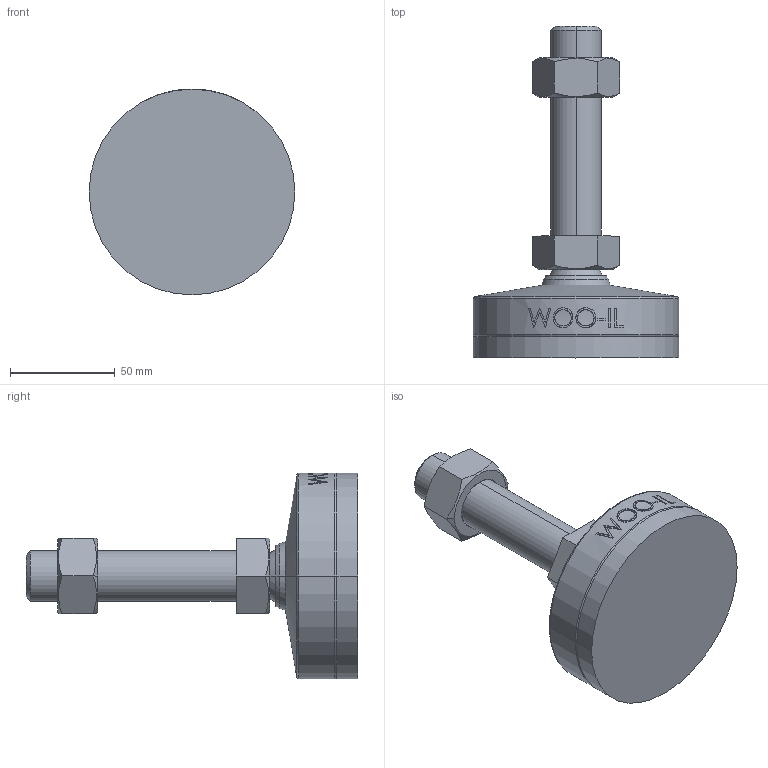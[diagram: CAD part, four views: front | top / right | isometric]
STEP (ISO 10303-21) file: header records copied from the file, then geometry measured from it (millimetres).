
FILE_DESCRIPTION (( 'STEP AP214' ), '1' );
FILE_NAME ('MFNR98-M24-100.step', '2021-02-22T09:09:10', ( '' ), ( '' ), 'SwSTEP 2.0', 'SolidWorks 2019', '' );
FILE_SCHEMA (( 'AUTOMOTIVE_DESIGN' ));
Length unit declared in the file: millimetre
Products named in the file (2): MFNR98-M24-100
Bounding box: 98 x 158 x 98 mm (x, y, z)
Volume: 318728.8 mm3; surface area: 40726.4 mm2
Topology: 2 solids, 2 shells, 103 faces, 239 edges, 152 vertices
Faces by surface type: plane 47, cone 18, cylinder 16, bspline 16, torus 4, sphere 2
Entity records: 4543 total; most frequent: CARTESIAN_POINT 2264, ORIENTED_EDGE 478, DIRECTION 423, EDGE_CURVE 239, AXIS2_PLACEMENT_3D 161, VERTEX_POINT 152, EDGE_LOOP 117, ADVANCED_FACE 103
